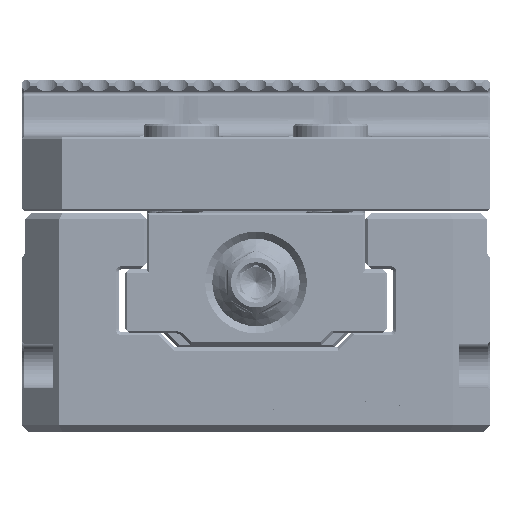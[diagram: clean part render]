
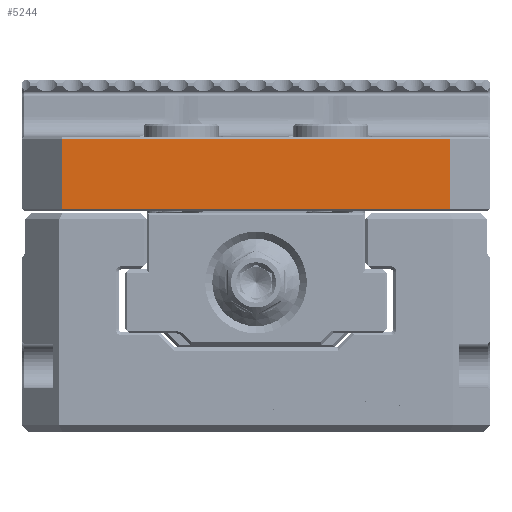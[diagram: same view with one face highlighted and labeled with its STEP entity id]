
A CAD part, front view. The second image highlights one B-rep face of the part: STEP entity #5244.
In plain terms, the highlighted planar face has unit normal (0, -1, 0).
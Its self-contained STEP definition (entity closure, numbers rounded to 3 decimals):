
#4092=PLANE('',#33018);
#5244=ADVANCED_FACE('',(#7218),#4092,.F.);
#7218=FACE_OUTER_BOUND('',#8735,.T.);
#8735=EDGE_LOOP('',(#16405,#16406,#16407,#16408));
#11039=LINE('',#48359,#13133);
#11040=LINE('',#48362,#13134);
#11041=LINE('',#48364,#13135);
#11042=LINE('',#48366,#13136);
#13133=VECTOR('',#36080,1.);
#13134=VECTOR('',#36081,1.);
#13135=VECTOR('',#36082,1.);
#13136=VECTOR('',#36083,1.);
#16405=ORIENTED_EDGE('',*,*,#27470,.F.);
#16406=ORIENTED_EDGE('',*,*,#27471,.T.);
#16407=ORIENTED_EDGE('',*,*,#27472,.T.);
#16408=ORIENTED_EDGE('',*,*,#27473,.T.);
#24462=VERTEX_POINT('',#48360);
#24463=VERTEX_POINT('',#48361);
#24464=VERTEX_POINT('',#48363);
#24465=VERTEX_POINT('',#48365);
#27470=EDGE_CURVE('',#24462,#24463,#11039,.T.);
#27471=EDGE_CURVE('',#24462,#24464,#11040,.T.);
#27472=EDGE_CURVE('',#24464,#24465,#11041,.T.);
#27473=EDGE_CURVE('',#24465,#24463,#11042,.T.);
#33018=AXIS2_PLACEMENT_3D('',#48367,#36084,#36085);
#36080=DIRECTION('',(0.,0.,1.));
#36081=DIRECTION('',(1.,0.,0.));
#36082=DIRECTION('',(0.,0.,1.));
#36083=DIRECTION('',(-1.,0.,0.));
#36084=DIRECTION('',(0.,1.,0.));
#36085=DIRECTION('',(-1.,0.,0.));
#48359=CARTESIAN_POINT('',(-31.15,-69.5,35.3));
#48360=CARTESIAN_POINT('',(-31.15,-69.5,35.7));
#48361=CARTESIAN_POINT('',(-31.15,-69.5,46.9));
#48362=CARTESIAN_POINT('',(-37.5,-69.5,35.7));
#48363=CARTESIAN_POINT('',(31.15,-69.5,35.7));
#48364=CARTESIAN_POINT('',(31.15,-69.5,35.3));
#48365=CARTESIAN_POINT('',(31.15,-69.5,46.9));
#48366=CARTESIAN_POINT('',(-37.5,-69.5,46.9));
#48367=CARTESIAN_POINT('',(-37.5,-69.5,35.3));
